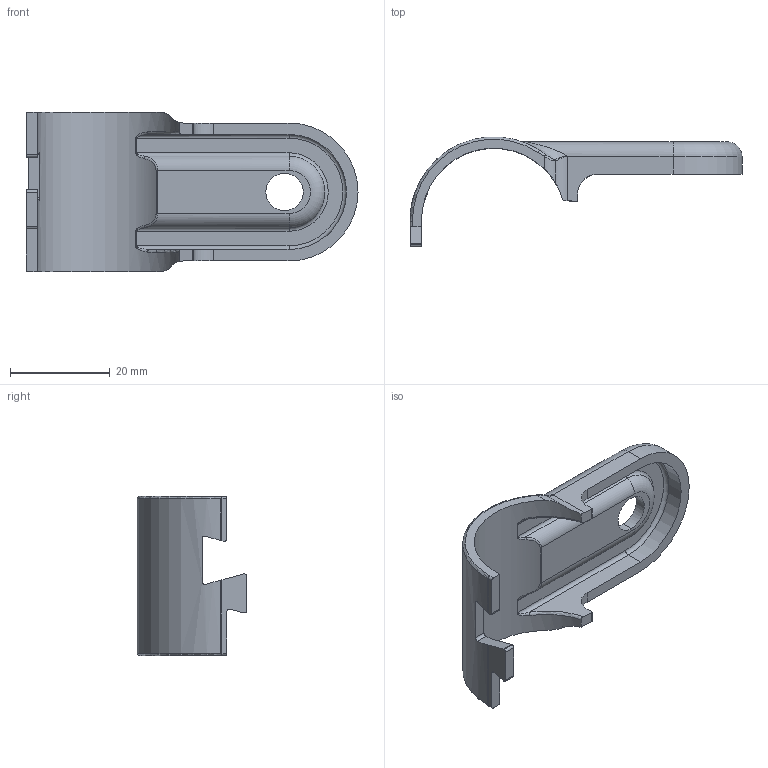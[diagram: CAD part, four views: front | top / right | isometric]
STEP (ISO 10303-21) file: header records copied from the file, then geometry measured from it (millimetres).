
FILE_DESCRIPTION (( 'STEP AP203' ), '1' );
FILE_NAME ('015.100.007A.STEP', '2016-10-24T07:27:43', ( '' ), ( '' ), 'SwSTEP 2.0', 'SolidWorks 2016', '' );
FILE_SCHEMA (( 'CONFIG_CONTROL_DESIGN' ));
Length unit declared in the file: millimetre
Products named in the file (1): 015.100.007A
Bounding box: 66.65 x 22.03 x 32 mm (x, y, z)
Volume: 5948.5 mm3; surface area: 5761.5 mm2
Topology: 1 solids, 1 shells, 96 faces, 252 edges, 156 vertices
Faces by surface type: cylinder 41, plane 28, bspline 18, torus 9
Entity records: 3993 total; most frequent: CARTESIAN_POINT 1706, ORIENTED_EDGE 500, DIRECTION 423, EDGE_CURVE 250, VERTEX_POINT 156, AXIS2_PLACEMENT_3D 156, VECTOR 111, LINE 111
